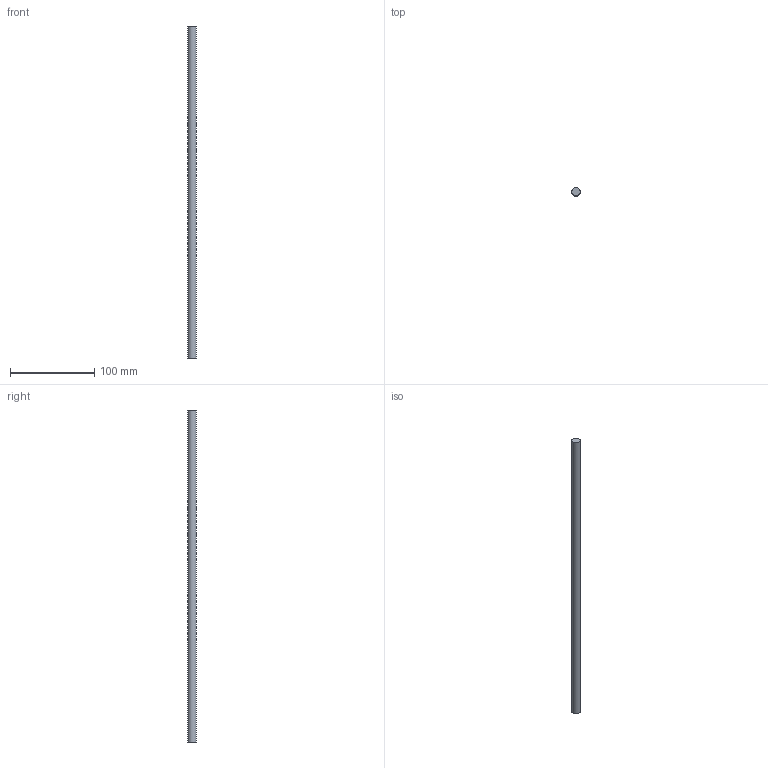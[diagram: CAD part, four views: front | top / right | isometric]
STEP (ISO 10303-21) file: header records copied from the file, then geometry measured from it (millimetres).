
FILE_DESCRIPTION (( 'STEP AP203' ), '1' );
FILE_NAME ('ORW-72.24.20.003 Îñü.STEP', '2025-10-13T13:18:10', ( 'Àíäðåé' ), ( '' ), 'SwSTEP 2.0', 'SolidWorks 2025', '' );
FILE_SCHEMA (( 'CONFIG_CONTROL_DESIGN' ));
Length unit declared in the file: millimetre
Products named in the file (1): ORW-72.24.20.003 Ось
Bounding box: 10 x 10 x 395 mm (x, y, z)
Volume: 31023.2 mm3; surface area: 12566.4 mm2
Topology: 1 solids, 1 shells, 3 faces, 3 edges, 2 vertices
Faces by surface type: plane 2, cylinder 1
Full cylindrical faces by diameter (mm): 10 x1
Entity records: 129 total; most frequent: DIRECTION 12, PERSON_AND_ORGANIZATION 8, CARTESIAN_POINT 8, AXIS2_PLACEMENT_3D 6, CALENDAR_DATE 5, LOCAL_TIME 5, CC_DESIGN_PERSON_AND_ORGANIZATION_ASSIGNMENT 5, PERSON_AND_ORGANIZATION_ROLE 5
